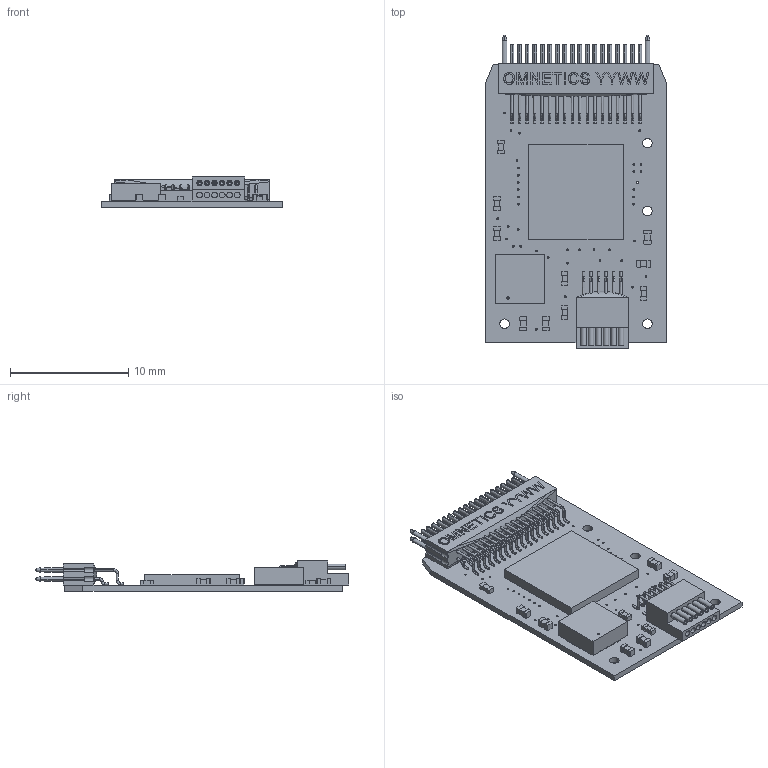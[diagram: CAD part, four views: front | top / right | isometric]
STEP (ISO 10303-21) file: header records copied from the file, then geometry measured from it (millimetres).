
FILE_DESCRIPTION (( 'STEP AP214' ), '1' );
FILE_NAME ('RHD2132_accel_headstage.STEP', '2022-03-21T18:42:06', ( '' ), ( '' ), 'SwSTEP 2.0', 'SolidWorks 2022', '' );
FILE_SCHEMA (( 'AUTOMOTIVE_DESIGN' ));
Length unit declared in the file: inch
Products named in the file (8): QFN_8x8mm; 0402c_2320560; RHD2132_accel_headstage; ADXL335; RHD2216_RHD2132_accel_headstage_PCB; 0402r_1430758; A79623-001; A79025-001
Assembly tree (15 placements, depth 2):
  RHD2132_accel_headstage
    RHD2216_RHD2132_accel_headstage_PCB
    0402c_2320560  x6
    0402r_1430758  x4
    A79025-001
    A79623-001
    QFN_8x8mm
    ADXL335
Bounding box: 15.24 x 26.43 x 2.54 mm (x, y, z)
Volume: 290.6 mm3; surface area: 1583.5 mm2
Topology: 32 solids, 43 shells, 1522 faces, 3803 edges, 2399 vertices
Faces by surface type: plane 580, cylinder 520, bspline 330, cone 92
Entity records: 55822 total; most frequent: CARTESIAN_POINT 17602, ORIENTED_EDGE 6614, DIRECTION 6023, EDGE_CURVE 3311, AXIS2_PLACEMENT_3D 2369, VERTEX_POINT 2143, EDGE_LOOP 1658, ADVANCED_FACE 1378
